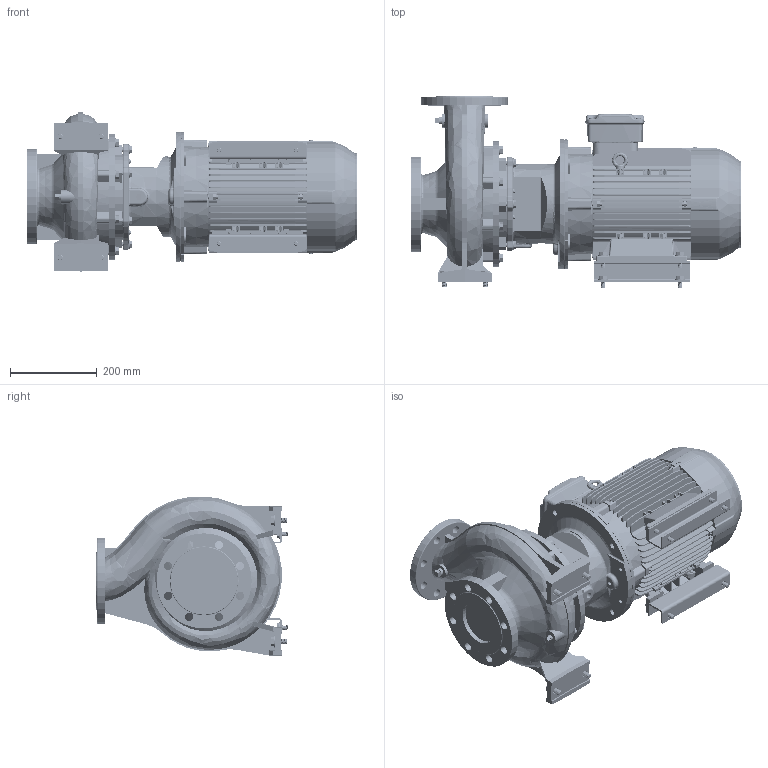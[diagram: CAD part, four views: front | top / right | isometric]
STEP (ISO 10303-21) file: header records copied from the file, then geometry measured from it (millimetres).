
FILE_DESCRIPTION (( 'STEP AP214' ), '1' );
FILE_NAME ('GSD4 80-200_7.5_(132M)_W21.STEP', '2026-07-01T02:20:19', ( '' ), ( '' ), 'SwSTEP 2.0', 'SolidWorks 2024', '' );
FILE_SCHEMA (( 'AUTOMOTIVE_DESIGN' ));
Length unit declared in the file: millimetre
Products named in the file (12): Parametric Flat Washer_M12; Parametric bolt_SFT-A249B; Parametric bolt and washer_SFT-A249B; 132M ALIE3_W21T_B35; Parametric bolt and washer_SFT-A253B; Parametric bolt and washer_SFT-A299B; 80-200-132M_ﾃﾞﾌｫﾙﾄ; 178 x 48 - CGSDA-5242; Parametric Flat Washer_M10; Parametric bolt_SFT-A299B; Parametric bolt_SFT-A253B; GSD4 80-200_7.5_(132M)_W21
Assembly tree (22 placements, depth 3):
  GSD4 80-200_7.5_(132M)_W21
    80-200-132M_ﾃﾞﾌｫﾙﾄ
    178 x 48 - CGSDA-5242  x2
    Parametric bolt and washer_SFT-A249B  x4
      Parametric bolt_SFT-A249B
      Parametric Flat Washer_M10
    Parametric bolt and washer_SFT-A253B  x4
      Parametric bolt_SFT-A253B
      Parametric Flat Washer_M10
    Parametric bolt and washer_SFT-A299B  x4
      Parametric bolt_SFT-A299B
      Parametric Flat Washer_M12
    132M ALIE3_W21T_B35
Bounding box: 764.8 x 444 x 367.65 mm (x, y, z)
Volume: 34718275 mm3; surface area: 2174458.5 mm2
Topology: 32 solids, 32 shells, 5226 faces, 13597 edges, 8777 vertices
Faces by surface type: plane 2986, cylinder 1330, torus 335, bspline 275, cone 268, sphere 32
Entity records: 185519 total; most frequent: CARTESIAN_POINT 72698, ORIENTED_EDGE 24434, DIRECTION 21809, EDGE_CURVE 12217, LINE 7927, VECTOR 7927, VERTEX_POINT 7897, AXIS2_PLACEMENT_3D 6941
